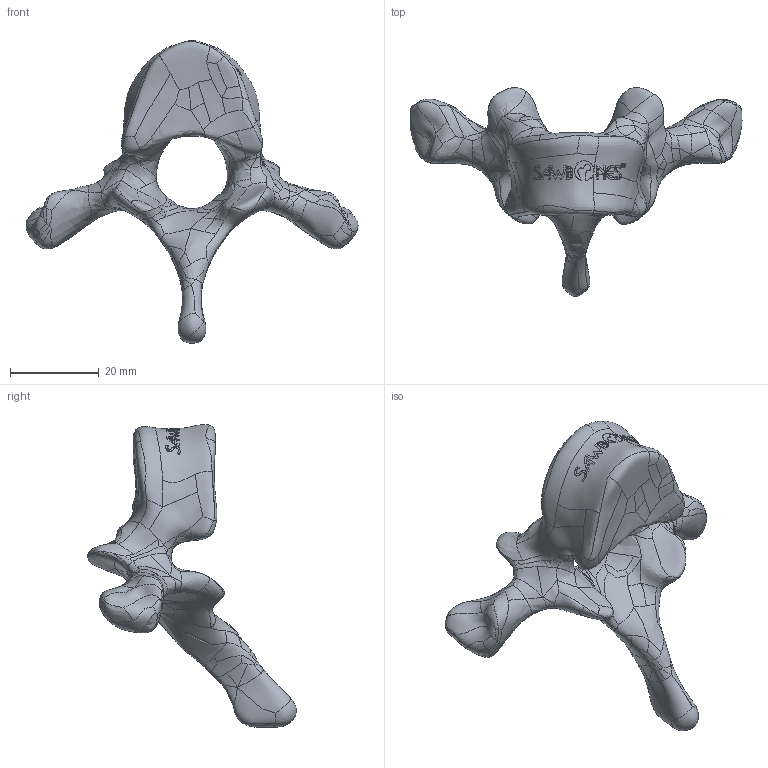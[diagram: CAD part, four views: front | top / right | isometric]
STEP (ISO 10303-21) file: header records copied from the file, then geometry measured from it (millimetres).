
FILE_DESCRIPTION (( 'STEP AP203' ), '1' );
FILE_NAME ('1379-60-3.STEP', '2026-07-28T19:18:37', ( '' ), ( '' ), 'SwSTEP 2.0', 'SolidWorks 2024', '' );
FILE_SCHEMA (( 'CONFIG_CONTROL_DESIGN' ));
Products named in the file (1): 1379-60-3
Bounding box: 74.92 x 47.08 x 68.36 mm (x, y, z)
Volume: 20193.3 mm3; surface area: 7377.1 mm2
Topology: 1 solids, 1 shells, 557 faces, 1462 edges, 915 vertices
Faces by surface type: bspline 557
Entity records: 994605 total; most frequent: CARTESIAN_POINT 985510, ORIENTED_EDGE 2924, EDGE_CURVE 1462, B_SPLINE_CURVE_WITH_KNOTS 1462, VERTEX_POINT 915, EDGE_LOOP 567, ADVANCED_FACE 557, B_SPLINE_SURFACE_WITH_KNOTS 557
